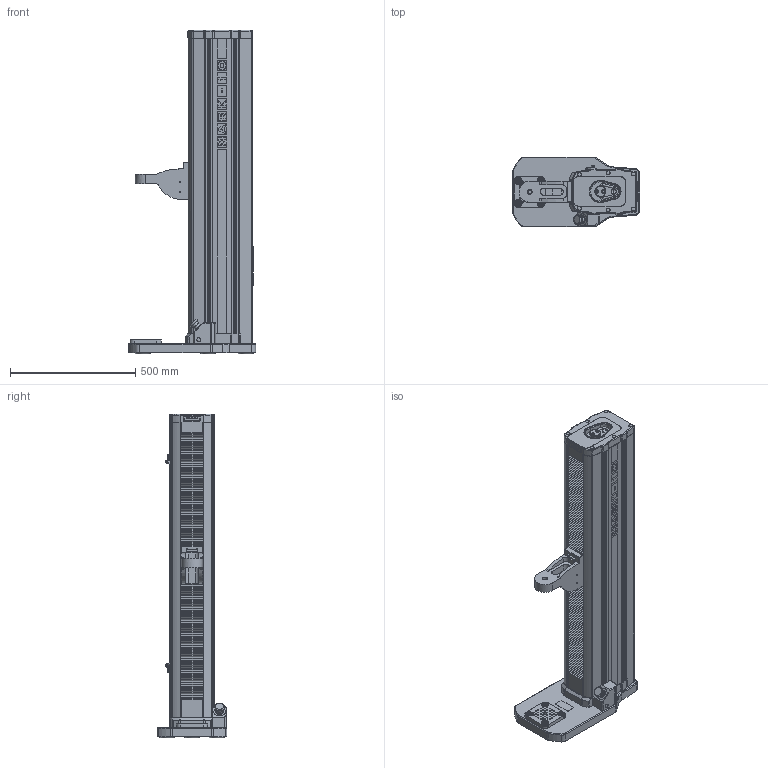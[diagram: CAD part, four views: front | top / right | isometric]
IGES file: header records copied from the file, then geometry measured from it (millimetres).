
Global section: file name: F755_IM; native system: Autodesk RealDWG; preprocessor: Autodesk Translation Framework DWG producer (atf_dwg_producer); organization: unknown; date: 20210205.153548; units: inch
Bounding box: 508 x 278.99 x 1292.86 mm (x, y, z)
Volume: 57348186.2 mm3; surface area: 2451688.2 mm2
Topology: 6 solids, 11 shells, 8901 faces, 25987 edges, 17941 vertices
Faces by surface type: bspline 8901
